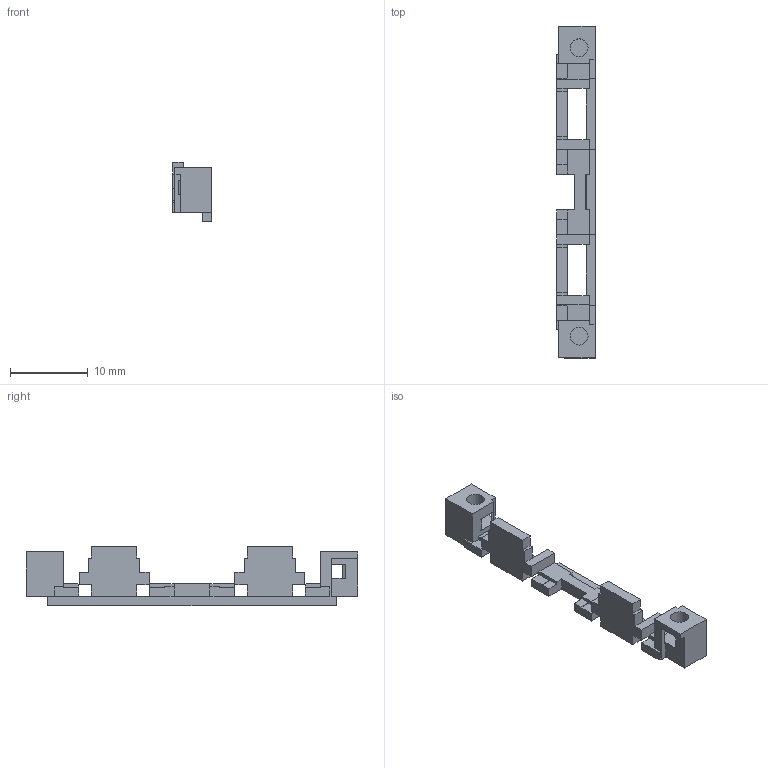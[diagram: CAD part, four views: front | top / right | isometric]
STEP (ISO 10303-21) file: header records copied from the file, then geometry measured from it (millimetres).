
FILE_DESCRIPTION(('Open CASCADE Model'),'2;1');
FILE_NAME('Open CASCADE Shape Model','2026-09-21T11:06:43',('Author'),( 'Open CASCADE'),'Open CASCADE STEP processor 7.7','Open CASCADE 7.7' ,'Unknown');
FILE_SCHEMA(('AUTOMOTIVE_DESIGN { 1 0 10303 214 1 1 1 1 }'));
Length unit declared in the file: millimetre
Products named in the file (1): Open CASCADE STEP translator 7.7 13
Bounding box: 5 x 42.6 x 7.6 mm (x, y, z)
Volume: 452.1 mm3; surface area: 1058.6 mm2
Topology: 1 solids, 1 shells, 128 faces, 400 edges, 264 vertices
Faces by surface type: plane 119, cylinder 9
Full cylindrical faces by diameter (mm): 2.3 x2
Entity records: 9362 total; most frequent: CARTESIAN_POINT 1839, DIRECTION 1230, LINE 918, VECTOR 918, ORIENTED_EDGE 800, PCURVE 800, DEFINITIONAL_REPRESENTATION 800, EDGE_CURVE 400
